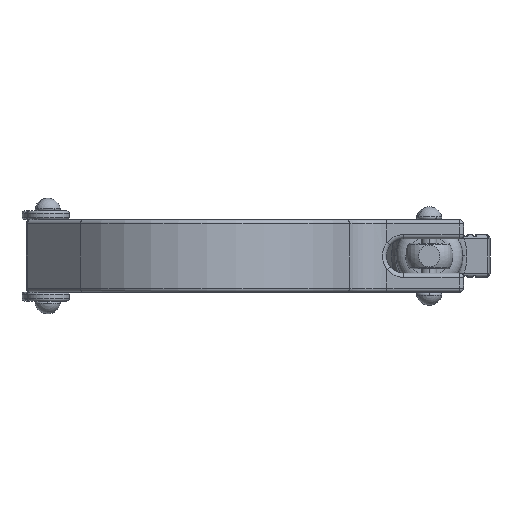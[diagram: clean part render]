
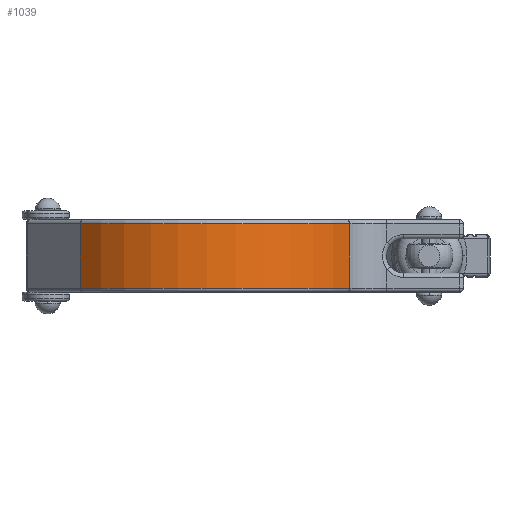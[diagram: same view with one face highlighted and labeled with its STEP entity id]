
A CAD part, front view. The second image highlights one B-rep face of the part: STEP entity #1039.
In plain terms, the highlighted cylindrical face has radius 38.5 mm (diameter 77 mm), a partial arc.
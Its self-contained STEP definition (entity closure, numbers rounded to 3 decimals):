
#650 = CYLINDRICAL_SURFACE ( 'NONE', #1574, 38.5 ) ;
#1039 = ADVANCED_FACE ( 'NONE', ( #3881 ), #650, .T. ) ;
#1183 = CARTESIAN_POINT ( 'NONE',  ( 0., 42.5, 7.5 ) ) ;
#1231 = EDGE_CURVE ( 'NONE', #3090, #14129, #15348, .T. ) ;
#1506 = ORIENTED_EDGE ( 'NONE', *, *, #14018, .T. ) ;
#1574 = AXIS2_PLACEMENT_3D ( 'NONE', #15141, #11402, #6260 ) ;
#1628 = DIRECTION ( 'NONE',  ( 0., 0., -1. ) ) ;
#2038 = CARTESIAN_POINT ( 'NONE',  ( -29.384, 17.624, 8.5 ) ) ;
#2477 = LINE ( 'NONE', #2038, #2686 ) ;
#2484 = DIRECTION ( 'NONE',  ( 1., 0., 0. ) ) ;
#2686 = VECTOR ( 'NONE', #12338, 1000. ) ;
#3090 = VERTEX_POINT ( 'NONE', #10848 ) ;
#3406 = AXIS2_PLACEMENT_3D ( 'NONE', #7849, #14220, #14332 ) ;
#3881 = FACE_OUTER_BOUND ( 'NONE', #5427, .T. ) ;
#5427 = EDGE_LOOP ( 'NONE', ( #13101, #7673, #7445, #1506 ) ) ;
#5515 = CIRCLE ( 'NONE', #11176, 38.5 ) ;
#6260 = DIRECTION ( 'NONE',  ( 1., 0., 0. ) ) ;
#6542 = CARTESIAN_POINT ( 'NONE',  ( 33.456, 23.448, -7.5 ) ) ;
#7445 = ORIENTED_EDGE ( 'NONE', *, *, #16675, .T. ) ;
#7673 = ORIENTED_EDGE ( 'NONE', *, *, #14548, .T. ) ;
#7849 = CARTESIAN_POINT ( 'NONE',  ( 0., 42.5, -7.5 ) ) ;
#9013 = DIRECTION ( 'NONE',  ( 0., 0., -1. ) ) ;
#10848 = CARTESIAN_POINT ( 'NONE',  ( 33.456, 23.448, 7.5 ) ) ;
#11176 = AXIS2_PLACEMENT_3D ( 'NONE', #1183, #1628, #2484 ) ;
#11402 = DIRECTION ( 'NONE',  ( 0., 0., -1. ) ) ;
#11912 = VERTEX_POINT ( 'NONE', #14370 ) ;
#12338 = DIRECTION ( 'NONE',  ( 0., 0., -1. ) ) ;
#12390 = CIRCLE ( 'NONE', #3406, 38.5 ) ;
#12603 = CARTESIAN_POINT ( 'NONE',  ( -29.384, 17.624, 7.5 ) ) ;
#13101 = ORIENTED_EDGE ( 'NONE', *, *, #1231, .F. ) ;
#14018 = EDGE_CURVE ( 'NONE', #11912, #14129, #12390, .T. ) ;
#14129 = VERTEX_POINT ( 'NONE', #6542 ) ;
#14220 = DIRECTION ( 'NONE',  ( 0., 0., 1. ) ) ;
#14332 = DIRECTION ( 'NONE',  ( 1., 0., 0. ) ) ;
#14370 = CARTESIAN_POINT ( 'NONE',  ( -29.384, 17.624, -7.5 ) ) ;
#14548 = EDGE_CURVE ( 'NONE', #3090, #15790, #5515, .T. ) ;
#15141 = CARTESIAN_POINT ( 'NONE',  ( 0., 42.5, 8.5 ) ) ;
#15348 = LINE ( 'NONE', #16636, #16145 ) ;
#15790 = VERTEX_POINT ( 'NONE', #12603 ) ;
#16145 = VECTOR ( 'NONE', #9013, 1000. ) ;
#16636 = CARTESIAN_POINT ( 'NONE',  ( 33.456, 23.448, 8.5 ) ) ;
#16675 = EDGE_CURVE ( 'NONE', #15790, #11912, #2477, .T. ) ;
